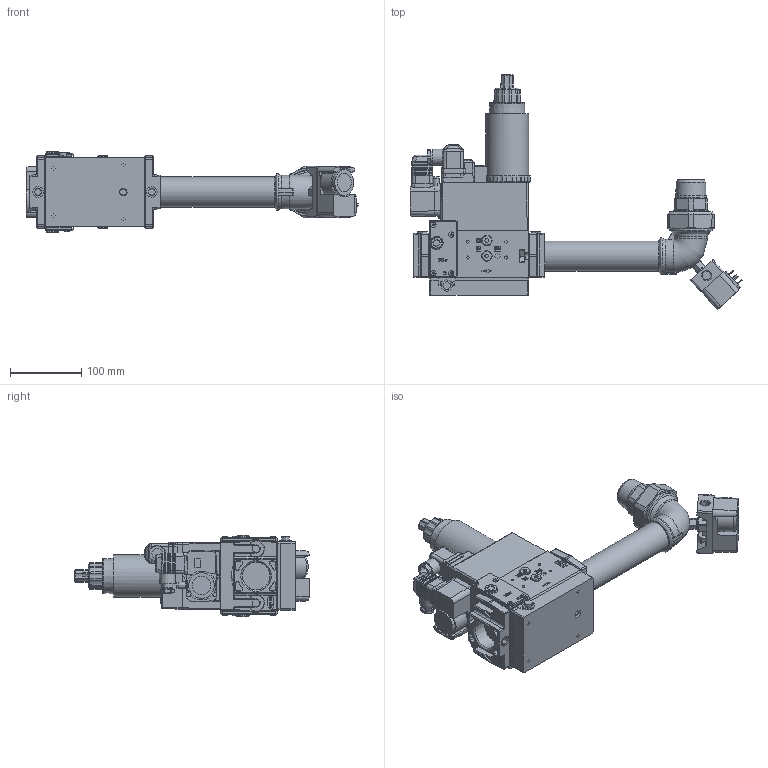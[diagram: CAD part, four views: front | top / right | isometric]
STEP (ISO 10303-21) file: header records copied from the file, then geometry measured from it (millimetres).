
FILE_DESCRIPTION (( 'STEP AP214' ), '1' );
FILE_NAME ('19990706.STEP', '2026-10-09T11:56:20', ( '' ), ( '' ), 'SwSTEP 2.0', 'SolidWorks 2025', '' );
FILE_SCHEMA (( 'AUTOMOTIVE_DESIGN' ));
Length unit declared in the file: millimetre
Products named in the file (1): 19990706
Bounding box: 466.79 x 329.77 x 115 mm (x, y, z)
Volume: 3228487.3 mm3; surface area: 347613 mm2
Topology: 12 solids, 12 shells, 3566 faces, 9230 edges, 5889 vertices
Faces by surface type: plane 1643, bspline 856, cylinder 731, torus 180, cone 144, sphere 12
Full cylindrical faces by diameter (mm): 0.7 x2, 1.5 x1, 2 x13, 2.459 x1, 2.5 x2, 3 x1, 4 x1, 4.5 x1, 4.8 x1, 5.391 x4, 6.2 x1, 7 x11, 7.3 x1, 8 x11, 8.8 x1, 9 x2, 9.73 x1, 10.6 x2, 11.359 x1, 12.5 x2, 13 x1, 13.16 x1, 14 x6, 15 x14, 15.2 x1, 15.8 x1, 18 x1, 22.5 x2, 26 x2, 35.9 x1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
Entity records: 148099 total; most frequent: CARTESIAN_POINT 71018, ORIENTED_EDGE 17692, DIRECTION 12323, EDGE_CURVE 8846, VERTEX_POINT 5795, LINE 4559, VECTOR 4559, EDGE_LOOP 4073
